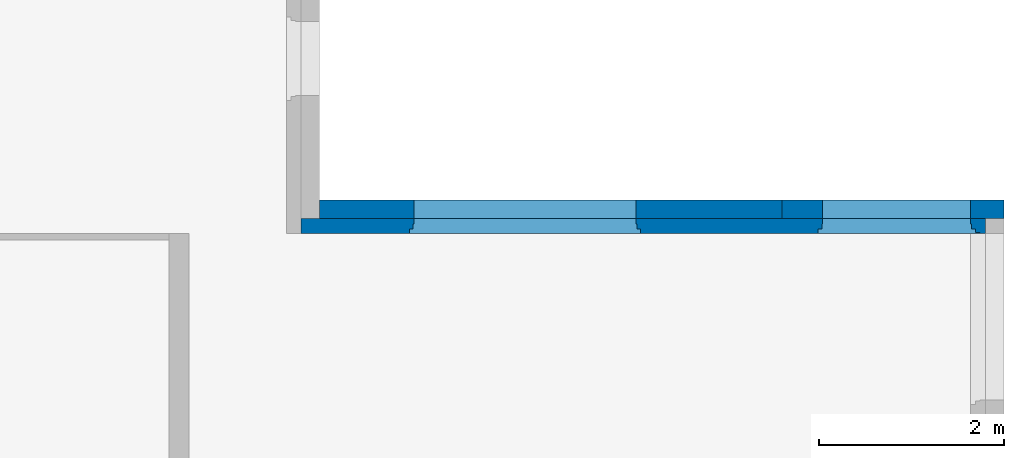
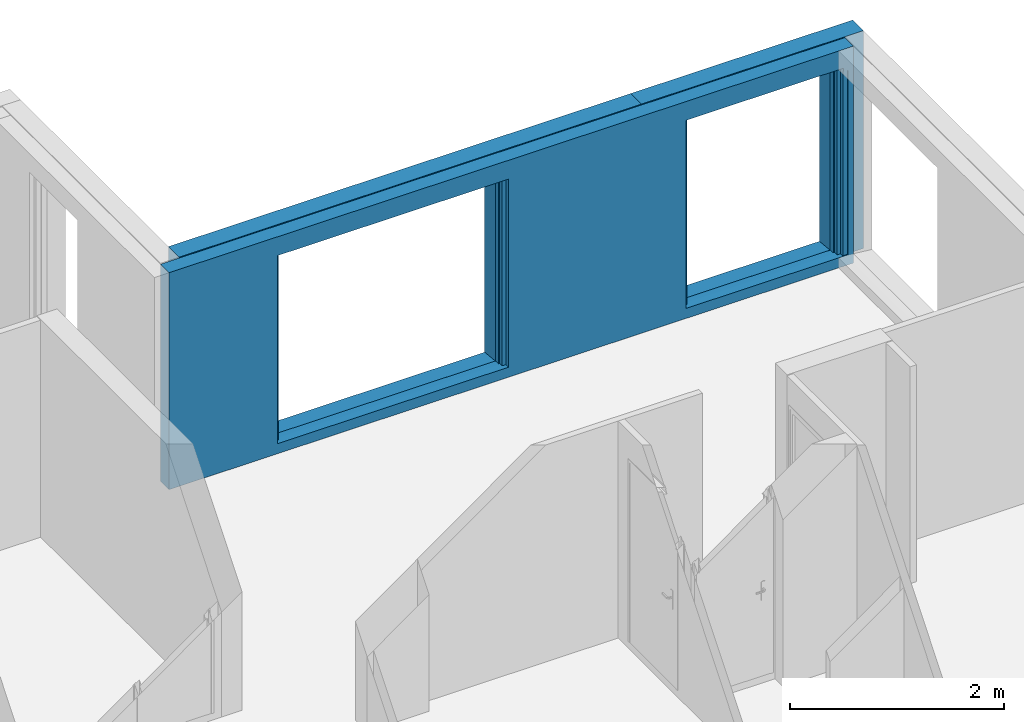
# One storey, part 6 of 8: 3 walls, 9 openings.
"""IFC2X3 building model written with IfcOpenShell, lengths in centimetres."""

from ifc_helpers import new_model, entity, si_unit, converted_unit, derived_unit, direction, frame, frame_2d, origin, place, context, subcontext, project, spatial, polyline, rectangle, extrude, clip, bounded_halfspace, faceted_brep, material, layer, layer_set, layer_usage, type_object, element, save


model = new_model("IFC2X3")

# Units and contexts
model_context = context("Model", 3, precision=0.001, world=origin(), true_north=direction((6.12303176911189e-17, 1.0)))
body_context = subcontext(model_context, "Body", "Model", "MODEL_VIEW")
ifc_project = project(units=[si_unit("LENGTHUNIT", "METRE", prefix="CENTI"), si_unit("AREAUNIT", "SQUARE_METRE"), si_unit("VOLUMEUNIT", "CUBIC_METRE"), converted_unit("PLANEANGLEUNIT", "DEGREE", entity("IfcRatioMeasure", 0.0174532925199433), si_unit("PLANEANGLEUNIT", "RADIAN"), dimensions=[0, 0, 0, 0, 0, 0, 0]), si_unit("MASSUNIT", "GRAM", prefix="KILO"), derived_unit("MASSDENSITYUNIT", [(si_unit("MASSUNIT", "GRAM", prefix="KILO"), 1), (si_unit("LENGTHUNIT", "METRE"), -3)]), derived_unit("MOMENTOFINERTIAUNIT", [(si_unit("LENGTHUNIT", "METRE"), 4)]), si_unit("TIMEUNIT", "SECOND"), si_unit("FREQUENCYUNIT", "HERTZ"), si_unit("THERMODYNAMICTEMPERATUREUNIT", "DEGREE_CELSIUS"), derived_unit("THERMALTRANSMITTANCEUNIT", [(si_unit("MASSUNIT", "GRAM", prefix="KILO"), 1), (si_unit("THERMODYNAMICTEMPERATUREUNIT", "KELVIN"), -1), (si_unit("TIMEUNIT", "SECOND"), -3)]), derived_unit("VOLUMETRICFLOWRATEUNIT", [(si_unit("LENGTHUNIT", "METRE"), 3), (si_unit("TIMEUNIT", "SECOND"), -1)]), si_unit("ELECTRICCURRENTUNIT", "AMPERE"), si_unit("ELECTRICVOLTAGEUNIT", "VOLT"), si_unit("POWERUNIT", "WATT"), si_unit("FORCEUNIT", "NEWTON", prefix="KILO"), si_unit("ILLUMINANCEUNIT", "LUX"), si_unit("LUMINOUSFLUXUNIT", "LUMEN"), si_unit("LUMINOUSINTENSITYUNIT", "CANDELA"), derived_unit("USERDEFINED", [(si_unit("MASSUNIT", "GRAM", prefix="KILO"), -1), (si_unit("LENGTHUNIT", "METRE"), -2), (si_unit("TIMEUNIT", "SECOND"), 3), (si_unit("LUMINOUSFLUXUNIT", "LUMEN"), 1)]), derived_unit("LINEARVELOCITYUNIT", [(si_unit("LENGTHUNIT", "METRE"), 1), (si_unit("TIMEUNIT", "SECOND"), -1)]), si_unit("PRESSUREUNIT", "PASCAL"), derived_unit("USERDEFINED", [(si_unit("LENGTHUNIT", "METRE"), -2), (si_unit("MASSUNIT", "GRAM", prefix="KILO"), 1), (si_unit("TIMEUNIT", "SECOND"), -2)]), derived_unit("LINEARFORCEUNIT", [(si_unit("MASSUNIT", "GRAM", prefix="KILO"), 1), (si_unit("LENGTHUNIT", "METRE"), 1), (si_unit("TIMEUNIT", "SECOND"), -2), (si_unit("LENGTHUNIT", "METRE"), -1)]), derived_unit("PLANARFORCEUNIT", [(si_unit("MASSUNIT", "GRAM", prefix="KILO"), 1), (si_unit("LENGTHUNIT", "METRE"), 1), (si_unit("TIMEUNIT", "SECOND"), -2), (si_unit("LENGTHUNIT", "METRE"), -2)])], contexts=[model_context])

# Site, building, storey
site_placement = place(None, origin())
site = spatial("IfcSite", under=ifc_project, at=site_placement, Name="Surface", CompositionType="ELEMENT")
building_placement = place(site_placement, origin())
building = spatial("IfcBuilding", under=site, at=building_placement, CompositionType="ELEMENT")
storey_placement = place(building_placement, frame((0.0, 0.0, -8.0)))
storey = spatial("IfcBuildingStorey", under=building, at=storey_placement, Name="-0.08_Dessus plancher", CompositionType="ELEMENT", Elevation=-8.0)

# Wall, openings
ifc_material_1 = material(Name="Maçonnerie - Béton")
ifc_layer_1 = layer(ifc_material_1, 20.0)
ifc_layer_set_1 = layer_set([ifc_layer_1], Name="Mur de base:Mur 20")
ifc_layer_usage_1 = layer_usage(ifc_layer_set_1, "AXIS2", "NEGATIVE", 10.0)
wall_type_1 = type_object("IfcWallType", Name="Mur de base:Mur 20", PredefinedType="STANDARD", material=ifc_layer_set_1)
wall_1_placement = place(storey_placement, frame((-1392.17726031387, 711.992317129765, 0.0)))
wall_1 = element("IfcWallStandardCase", 1, at=wall_1_placement, inside=storey, type_object=wall_type_1, material=ifc_layer_usage_1, Name="Mur de base:Mur 20", ObjectType="Mur de base:Mur 20", context=body_context, shape_type="Clipping", body=[
    clip(extrude(rectangle(XDim=500.000000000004, YDim=20.0, at=frame_2d((250.000000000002, 0.0), x_axis=(-1.0, 0.0))), origin(), (0.0, 0.0, 1.0), 249.0), bounded_halfspace(frame((0.0, -10.0, 249.0), z_axis=(0.0, 0.0, -1.0), x_axis=(0.0, -1.0, 0.0)), True, frame((0.0, -10.0, 249.0)), polyline([(0.0, 0.0), (500.0, 0.0), (500.0, 20.0), (0.0, 20.0), (0.0, 0.0)]))),
])
opening_1_placement = place(wall_1_placement, frame((97.0, -68.0, 8.0)))
element("IfcOpeningElement", 2, at=opening_1_placement, cuts=wall_1, Name="Mur de base:Mur 20", ObjectType="Opening", context=body_context, shape_type="Brep", body=[
    faceted_brep([(5.0, 50.0, 3.50000000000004), (5.0, 52.0, 3.50000000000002), (5.0, 52.0, 213.5), (5.0, 100.0, 213.5), (5.0, 100.0, 0.0), (5.0, 83.3002755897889, 0.0), (245.0, 0.0, 3.50000000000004), (245.0, 42.0, 3.50000000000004), (245.0, 42.0, 213.5), (245.0, 0.0, 213.5), (5.0, 0.0, 3.50000000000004), (5.0, 42.0, 3.50000000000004), (0.0, 42.0, 3.50000000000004), (0.0, 47.0, 3.50000000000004), (4.0, 47.0, 3.50000000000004), (4.0, 52.0, 3.50000000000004), (245.0, 50.0, 3.50000000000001), (245.0, 52.0, 3.50000000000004), (246.0, 52.0, 3.50000000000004), (246.0, 47.0, 3.50000000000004), (250.0, 47.0, 3.50000000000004), (250.0, 42.0, 3.50000000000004), (5.0, 0.0, 213.5), (245.0, 52.0, 213.5), (245.0, 100.0, 213.5), (245.0, 100.0, 0.0), (245.0, 83.3002755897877, 0.0), (0.0, 42.0, 218.5), (0.0, 47.0, 218.5), (250.0, 47.0, 218.5), (246.0, 47.0, 214.5), (4.0, 47.0, 214.5), (4.0, 52.0, 214.5), (246.0, 52.0, 214.5), (5.0, 42.0, 213.5), (250.0, 42.0, 218.5)], [[[0, 1, 2, 3, 4, 5]], [[6, 7, 8, 9]], [[10, 11, 12, 13, 14, 15, 1, 0, 16, 17, 18, 19, 20, 21, 7, 6]], [[10, 6, 9, 22]], [[3, 2, 23, 24]], [[3, 24, 25, 4]], [[4, 25, 26, 5]], [[5, 26, 16, 0]], [[12, 27, 28, 13]], [[13, 28, 29, 20, 19, 30, 31, 14]], [[14, 31, 32, 15]], [[15, 32, 33, 18, 17, 23, 2, 1]], [[11, 34, 8, 7, 21, 35, 27, 12]], [[27, 35, 29, 28]], [[30, 33, 32, 31]], [[29, 35, 21, 20]], [[19, 18, 33, 30]], [[9, 8, 34, 22]], [[24, 23, 17, 16, 26, 25]], [[22, 34, 11, 10]]]),
])
opening_2_placement = place(wall_1_placement, frame((539.0, -68.0, 8.0)))
element("IfcOpeningElement", 3, at=opening_2_placement, cuts=wall_1, Name="Mur de base:Mur 20", ObjectType="Opening", context=body_context, shape_type="Brep", body=[
    faceted_brep([(5.0, 50.0, 3.50000000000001), (5.0, 52.0, 3.5), (5.0, 52.0, 213.5), (5.0, 100.0, 213.5), (5.0, 100.0, 0.0), (5.0, 83.3002755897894, 0.0), (165.0, 0.0, 3.50000000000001), (165.0, 42.0, 3.50000000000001), (165.0, 42.0, 213.5), (165.0, 0.0, 213.5), (5.0, 0.0, 3.50000000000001), (5.0, 42.0, 3.50000000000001), (0.0, 42.0, 3.50000000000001), (0.0, 47.0, 3.50000000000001), (4.0, 47.0, 3.50000000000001), (4.0, 52.0, 3.50000000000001), (165.0, 50.0, 3.49999999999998), (165.0, 52.0, 3.50000000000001), (166.0, 52.0, 3.50000000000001), (166.0, 47.0, 3.50000000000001), (170.0, 47.0, 3.50000000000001), (170.0, 42.0, 3.50000000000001), (5.0, 0.0, 213.5), (165.0, 52.0, 213.5), (165.0, 100.0, 213.5), (165.0, 100.0, 0.0), (165.0, 83.3002755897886, 0.0), (0.0, 42.0, 218.5), (0.0, 47.0, 218.5), (170.0, 47.0, 218.5), (166.0, 47.0, 214.5), (4.0, 47.0, 214.5), (4.0, 52.0, 214.5), (166.0, 52.0, 214.5), (5.0, 42.0, 213.5), (170.0, 42.0, 218.5)], [[[0, 1, 2, 3, 4, 5]], [[6, 7, 8, 9]], [[10, 11, 12, 13, 14, 15, 1, 0, 16, 17, 18, 19, 20, 21, 7, 6]], [[10, 6, 9, 22]], [[3, 2, 23, 24]], [[3, 24, 25, 4]], [[4, 25, 26, 5]], [[5, 26, 16, 0]], [[12, 27, 28, 13]], [[13, 28, 29, 20, 19, 30, 31, 14]], [[14, 31, 32, 15]], [[15, 32, 33, 18, 17, 23, 2, 1]], [[11, 34, 8, 7, 21, 35, 27, 12]], [[27, 35, 29, 28]], [[30, 33, 32, 31]], [[29, 35, 21, 20]], [[19, 18, 33, 30]], [[9, 8, 34, 22]], [[24, 23, 17, 16, 26, 25]], [[22, 34, 11, 10]]]),
])
opening_3_placement = place(wall_1_placement, frame((662.0, -211.0, 8.0)))
element("IfcOpeningElement", 4, at=opening_3_placement, cuts=wall_1, Name="Mur de base:Mur 20", ObjectType="Opening", context=body_context, shape_type="Brep", body=[
    faceted_brep([(50.0, 185.0, 3.50000000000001), (52.0, 185.0, 3.5), (52.0, 185.0, 213.5), (100.0, 185.0, 213.5), (100.0, 185.0, 0.0), (83.3002755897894, 185.0, 0.0), (0.0, 5.0, 3.50000000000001), (42.0, 5.0, 3.50000000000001), (42.0, 5.0, 213.5), (0.0, 5.0, 213.5), (0.0, 185.0, 3.50000000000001), (42.0, 185.0, 3.50000000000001), (42.0, 190.0, 3.50000000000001), (47.0, 190.0, 3.50000000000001), (47.0, 186.0, 3.50000000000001), (52.0, 186.0, 3.50000000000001), (50.0, 5.0, 3.49999999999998), (52.0, 5.0, 3.50000000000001), (52.0, 4.0, 3.50000000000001), (47.0, 4.0, 3.50000000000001), (47.0, 0.0, 3.50000000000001), (42.0, 0.0, 3.50000000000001), (0.0, 185.0, 213.5), (52.0, 5.0, 213.5), (100.0, 5.0, 213.5), (100.0, 5.0, 0.0), (83.3002755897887, 5.0, 0.0), (42.0, 190.0, 218.5), (47.0, 190.0, 218.5), (47.0, 0.0, 218.5), (47.0, 4.0, 214.5), (47.0, 186.0, 214.5), (52.0, 186.0, 214.5), (52.0, 4.0, 214.5), (42.0, 185.0, 213.5), (42.0, 0.0, 218.5)], [[[0, 1, 2, 3, 4, 5]], [[6, 7, 8, 9]], [[10, 11, 12, 13, 14, 15, 1, 0, 16, 17, 18, 19, 20, 21, 7, 6]], [[10, 6, 9, 22]], [[3, 2, 23, 24]], [[3, 24, 25, 4]], [[4, 25, 26, 5]], [[5, 26, 16, 0]], [[12, 27, 28, 13]], [[13, 28, 29, 20, 19, 30, 31, 14]], [[14, 31, 32, 15]], [[15, 32, 33, 18, 17, 23, 2, 1]], [[11, 34, 8, 7, 21, 35, 27, 12]], [[27, 35, 29, 28]], [[30, 33, 32, 31]], [[29, 35, 21, 20]], [[19, 18, 33, 30]], [[9, 8, 34, 22]], [[24, 23, 17, 16, 26, 25]], [[22, 34, 11, 10]]]),
])

ifc_layer_usage_2 = layer_usage(ifc_layer_set_1, "AXIS2", "NEGATIVE", 10.0)
wall_2_placement = place(storey_placement, frame((-892.177260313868, 711.992317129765, 0.0)))
wall_2 = element("IfcWallStandardCase", 5, at=wall_2_placement, inside=storey, type_object=wall_type_1, material=ifc_layer_usage_2, Name="Mur de base:Mur 20", ObjectType="Mur de base:Mur 20", context=body_context, shape_type="Clipping", body=[
    clip(extrude(rectangle(XDim=239.999999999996, YDim=20.0, at=frame_2d((119.999999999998, 0.0), x_axis=(-1.0, 0.0))), origin(), (0.0, 0.0, 1.0), 249.0), bounded_halfspace(frame((0.0, -10.0, 249.0), z_axis=(0.0, 0.0, -1.0), x_axis=(0.0, -1.0, 0.0)), True, frame((0.0, -10.0, 249.0)), polyline([(0.0, 0.0), (220.0, 0.0), (240.0, 0.0), (240.0, 20.0), (0.0, 20.0), (0.0, 0.0)]))),
])
opening_4_placement = place(wall_2_placement, frame((-403.0, -68.0, 8.0)))
element("IfcOpeningElement", 6, at=opening_4_placement, cuts=wall_2, Name="Mur de base:Mur 20", ObjectType="Opening", context=body_context, shape_type="Brep", body=[
    faceted_brep([(5.0, 50.0, 3.50000000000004), (5.0, 52.0, 3.50000000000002), (5.0, 52.0, 213.5), (5.0, 100.0, 213.5), (5.0, 100.0, 0.0), (5.0, 83.3002755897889, 0.0), (245.0, 0.0, 3.50000000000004), (245.0, 42.0, 3.50000000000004), (245.0, 42.0, 213.5), (245.0, 0.0, 213.5), (5.0, 0.0, 3.50000000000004), (5.0, 42.0, 3.50000000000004), (0.0, 42.0, 3.50000000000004), (0.0, 47.0, 3.50000000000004), (4.0, 47.0, 3.50000000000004), (4.0, 52.0, 3.50000000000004), (245.0, 50.0, 3.50000000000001), (245.0, 52.0, 3.50000000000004), (246.0, 52.0, 3.50000000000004), (246.0, 47.0, 3.50000000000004), (250.0, 47.0, 3.50000000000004), (250.0, 42.0, 3.50000000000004), (5.0, 0.0, 213.5), (245.0, 52.0, 213.5), (245.0, 100.0, 213.5), (245.0, 100.0, 0.0), (245.0, 83.3002755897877, 0.0), (0.0, 42.0, 218.5), (0.0, 47.0, 218.5), (250.0, 47.0, 218.5), (246.0, 47.0, 214.5), (4.0, 47.0, 214.5), (4.0, 52.0, 214.5), (246.0, 52.0, 214.5), (5.0, 42.0, 213.5), (250.0, 42.0, 218.5)], [[[0, 1, 2, 3, 4, 5]], [[6, 7, 8, 9]], [[10, 11, 12, 13, 14, 15, 1, 0, 16, 17, 18, 19, 20, 21, 7, 6]], [[10, 6, 9, 22]], [[3, 2, 23, 24]], [[3, 24, 25, 4]], [[4, 25, 26, 5]], [[5, 26, 16, 0]], [[12, 27, 28, 13]], [[13, 28, 29, 20, 19, 30, 31, 14]], [[14, 31, 32, 15]], [[15, 32, 33, 18, 17, 23, 2, 1]], [[11, 34, 8, 7, 21, 35, 27, 12]], [[27, 35, 29, 28]], [[30, 33, 32, 31]], [[29, 35, 21, 20]], [[19, 18, 33, 30]], [[9, 8, 34, 22]], [[24, 23, 17, 16, 26, 25]], [[22, 34, 11, 10]]]),
])
opening_5_placement = place(wall_2_placement, frame((39.0, -68.0, 8.0)))
element("IfcOpeningElement", 7, at=opening_5_placement, cuts=wall_2, Name="Mur de base:Mur 20", ObjectType="Opening", context=body_context, shape_type="Brep", body=[
    faceted_brep([(5.0, 50.0, 3.50000000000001), (5.0, 52.0, 3.5), (5.0, 52.0, 213.5), (5.0, 100.0, 213.5), (5.0, 100.0, 0.0), (5.0, 83.3002755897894, 0.0), (165.0, 0.0, 3.50000000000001), (165.0, 42.0, 3.50000000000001), (165.0, 42.0, 213.5), (165.0, 0.0, 213.5), (5.0, 0.0, 3.50000000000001), (5.0, 42.0, 3.50000000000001), (0.0, 42.0, 3.50000000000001), (0.0, 47.0, 3.50000000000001), (4.0, 47.0, 3.50000000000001), (4.0, 52.0, 3.50000000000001), (165.0, 50.0, 3.49999999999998), (165.0, 52.0, 3.50000000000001), (166.0, 52.0, 3.50000000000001), (166.0, 47.0, 3.50000000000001), (170.0, 47.0, 3.50000000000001), (170.0, 42.0, 3.50000000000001), (5.0, 0.0, 213.5), (165.0, 52.0, 213.5), (165.0, 100.0, 213.5), (165.0, 100.0, 0.0), (165.0, 83.3002755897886, 0.0), (0.0, 42.0, 218.5), (0.0, 47.0, 218.5), (170.0, 47.0, 218.5), (166.0, 47.0, 214.5), (4.0, 47.0, 214.5), (4.0, 52.0, 214.5), (166.0, 52.0, 214.5), (5.0, 42.0, 213.5), (170.0, 42.0, 218.5)], [[[0, 1, 2, 3, 4, 5]], [[6, 7, 8, 9]], [[10, 11, 12, 13, 14, 15, 1, 0, 16, 17, 18, 19, 20, 21, 7, 6]], [[10, 6, 9, 22]], [[3, 2, 23, 24]], [[3, 24, 25, 4]], [[4, 25, 26, 5]], [[5, 26, 16, 0]], [[12, 27, 28, 13]], [[13, 28, 29, 20, 19, 30, 31, 14]], [[14, 31, 32, 15]], [[15, 32, 33, 18, 17, 23, 2, 1]], [[11, 34, 8, 7, 21, 35, 27, 12]], [[27, 35, 29, 28]], [[30, 33, 32, 31]], [[29, 35, 21, 20]], [[19, 18, 33, 30]], [[9, 8, 34, 22]], [[24, 23, 17, 16, 26, 25]], [[22, 34, 11, 10]]]),
])
opening_6_placement = place(wall_2_placement, frame((162.0, -211.0, 8.0)))
element("IfcOpeningElement", 8, at=opening_6_placement, cuts=wall_2, Name="Mur de base:Mur 20", ObjectType="Opening", context=body_context, shape_type="Brep", body=[
    faceted_brep([(50.0, 185.0, 3.50000000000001), (52.0, 185.0, 3.5), (52.0, 185.0, 213.5), (100.0, 185.0, 213.5), (100.0, 185.0, 0.0), (83.3002755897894, 185.0, 0.0), (0.0, 5.0, 3.50000000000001), (42.0, 5.0, 3.50000000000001), (42.0, 5.0, 213.5), (0.0, 5.0, 213.5), (0.0, 185.0, 3.50000000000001), (42.0, 185.0, 3.50000000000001), (42.0, 190.0, 3.50000000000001), (47.0, 190.0, 3.50000000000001), (47.0, 186.0, 3.50000000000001), (52.0, 186.0, 3.50000000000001), (50.0, 5.0, 3.49999999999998), (52.0, 5.0, 3.50000000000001), (52.0, 4.0, 3.50000000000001), (47.0, 4.0, 3.50000000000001), (47.0, 0.0, 3.50000000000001), (42.0, 0.0, 3.50000000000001), (0.0, 185.0, 213.5), (52.0, 5.0, 213.5), (100.0, 5.0, 213.5), (100.0, 5.0, 0.0), (83.3002755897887, 5.0, 0.0), (42.0, 190.0, 218.5), (47.0, 190.0, 218.5), (47.0, 0.0, 218.5), (47.0, 4.0, 214.5), (47.0, 186.0, 214.5), (52.0, 186.0, 214.5), (52.0, 4.0, 214.5), (42.0, 185.0, 213.5), (42.0, 0.0, 218.5)], [[[0, 1, 2, 3, 4, 5]], [[6, 7, 8, 9]], [[10, 11, 12, 13, 14, 15, 1, 0, 16, 17, 18, 19, 20, 21, 7, 6]], [[10, 6, 9, 22]], [[3, 2, 23, 24]], [[3, 24, 25, 4]], [[4, 25, 26, 5]], [[5, 26, 16, 0]], [[12, 27, 28, 13]], [[13, 28, 29, 20, 19, 30, 31, 14]], [[14, 31, 32, 15]], [[15, 32, 33, 18, 17, 23, 2, 1]], [[11, 34, 8, 7, 21, 35, 27, 12]], [[27, 35, 29, 28]], [[30, 33, 32, 31]], [[29, 35, 21, 20]], [[19, 18, 33, 30]], [[9, 8, 34, 22]], [[24, 23, 17, 16, 26, 25]], [[22, 34, 11, 10]]]),
])

ifc_material_2 = material(Name="Isolant rigide")
ifc_layer_2 = layer(ifc_material_2, 16.0)
ifc_layer_set_2 = layer_set([ifc_layer_2], Name="Mur de base:Doublage 16")
ifc_layer_usage_3 = layer_usage(ifc_layer_set_2, "AXIS2", "POSITIVE", -8.0)
wall_type_2 = type_object("IfcWallType", Name="Mur de base:Doublage 16", PredefinedType="STANDARD", material=ifc_layer_set_2)
wall_3_placement = place(storey_placement, frame((-1412.17726031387, 693.992317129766, 0.0)))
wall_3 = element("IfcWallStandardCase", 9, at=wall_3_placement, inside=storey, type_object=wall_type_2, material=ifc_layer_usage_3, Name="Mur de base:Doublage 16", ObjectType="Mur de base:Doublage 16", context=body_context, shape_type="SweptSolid", body=[
    extrude(rectangle(XDim=740.000000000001, YDim=16.0, at=frame_2d((370.0, 0.0), x_axis=(-1.0, 0.0))), origin(), (0.0, 0.0, 1.0), 248.0),
])
opening_7_placement = place(wall_3_placement, frame((682.0, -193.0, 8.0)))
element("IfcOpeningElement", 10, at=opening_7_placement, cuts=wall_3, Name="Mur de base:Doublage 16", ObjectType="Opening", context=body_context, shape_type="Brep", body=[
    faceted_brep([(50.0, 185.0, 3.50000000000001), (52.0, 185.0, 3.5), (52.0, 185.0, 213.5), (100.0, 185.0, 213.5), (100.0, 185.0, 0.0), (83.3002755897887, 185.0, 0.0), (0.0, 5.0, 3.50000000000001), (42.0, 5.0, 3.50000000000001), (42.0, 5.0, 213.5), (0.0, 5.0, 213.5), (0.0, 185.0, 3.50000000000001), (42.0, 185.0, 3.50000000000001), (42.0, 190.0, 3.50000000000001), (47.0, 190.0, 3.50000000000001), (47.0, 186.0, 3.50000000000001), (52.0, 186.0, 3.50000000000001), (50.0, 5.0, 3.49999999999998), (52.0, 5.0, 3.50000000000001), (52.0, 4.0, 3.50000000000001), (47.0, 4.0, 3.50000000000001), (47.0, 0.0, 3.50000000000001), (42.0, 0.0, 3.50000000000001), (0.0, 185.0, 213.5), (52.0, 5.0, 213.5), (100.0, 5.0, 213.5), (100.0, 5.0, 0.0), (83.3002755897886, 5.0, 0.0), (42.0, 190.0, 218.5), (47.0, 190.0, 218.5), (47.0, 0.0, 218.5), (47.0, 4.0, 214.5), (47.0, 186.0, 214.5), (52.0, 186.0, 214.5), (52.0, 4.0, 214.5), (42.0, 185.0, 213.5), (42.0, 0.0, 218.5)], [[[0, 1, 2, 3, 4, 5]], [[6, 7, 8, 9]], [[10, 11, 12, 13, 14, 15, 1, 0, 16, 17, 18, 19, 20, 21, 7, 6]], [[10, 6, 9, 22]], [[3, 2, 23, 24]], [[3, 24, 25, 4]], [[4, 25, 26, 5]], [[5, 26, 16, 0]], [[12, 27, 28, 13]], [[13, 28, 29, 20, 19, 30, 31, 14]], [[14, 31, 32, 15]], [[15, 32, 33, 18, 17, 23, 2, 1]], [[11, 34, 8, 7, 21, 35, 27, 12]], [[27, 35, 29, 28]], [[30, 33, 32, 31]], [[29, 35, 21, 20]], [[19, 18, 33, 30]], [[9, 8, 34, 22]], [[24, 23, 17, 16, 26, 25]], [[22, 34, 11, 10]]]),
])
opening_8_placement = place(wall_3_placement, frame((559.0, -50.0, 8.0)))
element("IfcOpeningElement", 11, at=opening_8_placement, cuts=wall_3, Name="Mur de base:Doublage 16", ObjectType="Opening", context=body_context, shape_type="Brep", body=[
    faceted_brep([(5.0, 50.0, 3.50000000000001), (5.0, 52.0, 3.5), (5.0, 52.0, 213.5), (5.0, 100.0, 213.5), (5.0, 100.0, 0.0), (5.0, 83.3002755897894, 0.0), (165.0, 0.0, 3.50000000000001), (165.0, 42.0, 3.50000000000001), (165.0, 42.0, 213.5), (165.0, 0.0, 213.5), (5.0, 0.0, 3.50000000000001), (5.0, 42.0, 3.50000000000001), (0.0, 42.0, 3.50000000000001), (0.0, 47.0, 3.50000000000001), (4.0, 47.0, 3.50000000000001), (4.0, 52.0, 3.50000000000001), (165.0, 50.0, 3.49999999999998), (165.0, 52.0, 3.50000000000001), (166.0, 52.0, 3.50000000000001), (166.0, 47.0, 3.50000000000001), (170.0, 47.0, 3.50000000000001), (170.0, 42.0, 3.50000000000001), (5.0, 0.0, 213.5), (165.0, 52.0, 213.5), (165.0, 100.0, 213.5), (165.0, 100.0, 0.0), (165.0, 83.3002755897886, 0.0), (0.0, 42.0, 218.5), (0.0, 47.0, 218.5), (170.0, 47.0, 218.5), (166.0, 47.0, 214.5), (4.0, 47.0, 214.5), (4.0, 52.0, 214.5), (166.0, 52.0, 214.5), (5.0, 42.0, 213.5), (170.0, 42.0, 218.5)], [[[0, 1, 2, 3, 4, 5]], [[6, 7, 8, 9]], [[10, 11, 12, 13, 14, 15, 1, 0, 16, 17, 18, 19, 20, 21, 7, 6]], [[10, 6, 9, 22]], [[3, 2, 23, 24]], [[3, 24, 25, 4]], [[4, 25, 26, 5]], [[5, 26, 16, 0]], [[12, 27, 28, 13]], [[13, 28, 29, 20, 19, 30, 31, 14]], [[14, 31, 32, 15]], [[15, 32, 33, 18, 17, 23, 2, 1]], [[11, 34, 8, 7, 21, 35, 27, 12]], [[27, 35, 29, 28]], [[30, 33, 32, 31]], [[29, 35, 21, 20]], [[19, 18, 33, 30]], [[9, 8, 34, 22]], [[24, 23, 17, 16, 26, 25]], [[22, 34, 11, 10]]]),
])
opening_9_placement = place(wall_3_placement, frame((117.0, -50.0, 8.0)))
element("IfcOpeningElement", 12, at=opening_9_placement, cuts=wall_3, Name="Mur de base:Doublage 16", ObjectType="Opening", context=body_context, shape_type="Brep", body=[
    faceted_brep([(5.0, 50.0, 3.50000000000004), (5.0, 52.0, 3.50000000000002), (5.0, 52.0, 213.5), (5.0, 100.0, 213.5), (5.0, 100.0, 0.0), (5.0, 83.3002755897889, 0.0), (245.0, 0.0, 3.50000000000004), (245.0, 42.0, 3.50000000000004), (245.0, 42.0, 213.5), (245.0, 0.0, 213.5), (5.0, 0.0, 3.50000000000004), (5.0, 42.0, 3.50000000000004), (0.0, 42.0, 3.50000000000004), (0.0, 47.0, 3.50000000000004), (4.0, 47.0, 3.50000000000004), (4.0, 52.0, 3.50000000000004), (245.0, 50.0, 3.50000000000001), (245.0, 52.0, 3.50000000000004), (246.0, 52.0, 3.50000000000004), (246.0, 47.0, 3.50000000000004), (250.0, 47.0, 3.50000000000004), (250.0, 42.0, 3.50000000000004), (5.0, 0.0, 213.5), (245.0, 52.0, 213.5), (245.0, 100.0, 213.5), (245.0, 100.0, 0.0), (245.0, 83.3002755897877, 0.0), (0.0, 42.0, 218.5), (0.0, 47.0, 218.5), (250.0, 47.0, 218.5), (246.0, 47.0, 214.5), (4.0, 47.0, 214.5), (4.0, 52.0, 214.5), (246.0, 52.0, 214.5), (5.0, 42.0, 213.5), (250.0, 42.0, 218.5)], [[[0, 1, 2, 3, 4, 5]], [[6, 7, 8, 9]], [[10, 11, 12, 13, 14, 15, 1, 0, 16, 17, 18, 19, 20, 21, 7, 6]], [[10, 6, 9, 22]], [[3, 2, 23, 24]], [[3, 24, 25, 4]], [[4, 25, 26, 5]], [[5, 26, 16, 0]], [[12, 27, 28, 13]], [[13, 28, 29, 20, 19, 30, 31, 14]], [[14, 31, 32, 15]], [[15, 32, 33, 18, 17, 23, 2, 1]], [[11, 34, 8, 7, 21, 35, 27, 12]], [[27, 35, 29, 28]], [[30, 33, 32, 31]], [[29, 35, 21, 20]], [[19, 18, 33, 30]], [[9, 8, 34, 22]], [[24, 23, 17, 16, 26, 25]], [[22, 34, 11, 10]]]),
])

save(model, "model.ifc")
